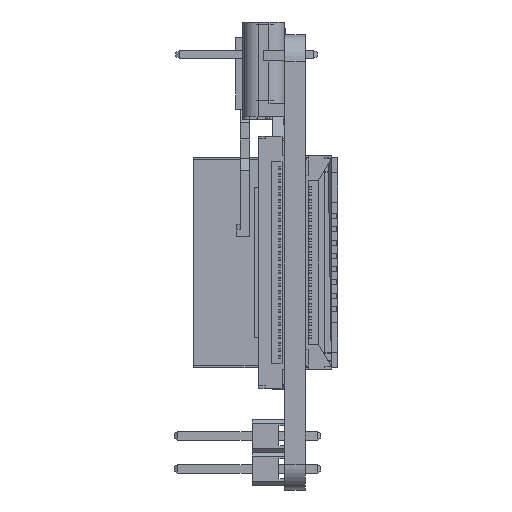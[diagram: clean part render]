
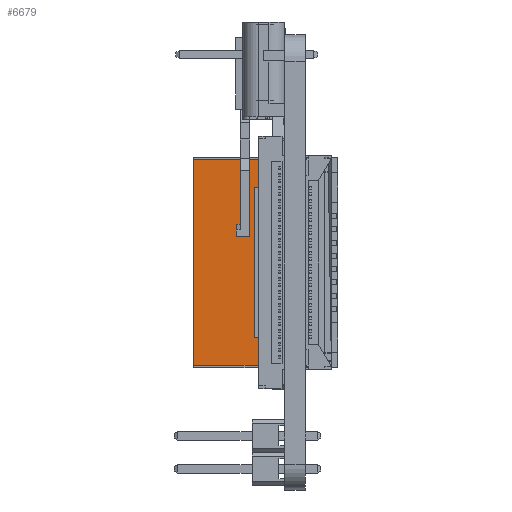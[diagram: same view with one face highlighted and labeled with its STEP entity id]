
A CAD part, left-side view. The second image highlights one B-rep face of the part: STEP entity #6679.
In plain terms, the highlighted planar face has unit normal (-1, 0, 0) as drawn and (0, -1, 0) by its records, which use the part's own axes.
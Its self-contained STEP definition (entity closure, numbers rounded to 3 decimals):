
#3227 = ORIENTED_EDGE ( 'NONE', *, *, #70784, .F. ) ;
#5444 = VECTOR ( 'NONE', #40023, 1000. ) ;
#6679 = ADVANCED_FACE ( 'NONE', ( #125054 ), #77301, .F. ) ;
#6750 = CARTESIAN_POINT ( 'NONE',  ( 0., 0., 0. ) ) ;
#7364 = VECTOR ( 'NONE', #14921, 1000. ) ;
#9146 = LINE ( 'NONE', #81284, #94436 ) ;
#13979 = CARTESIAN_POINT ( 'NONE',  ( 5.77, 0., 1.35 ) ) ;
#14921 = DIRECTION ( 'NONE',  ( 0., 0., 1. ) ) ;
#16116 = DIRECTION ( 'NONE',  ( 1., 0., 0. ) ) ;
#16457 = VERTEX_POINT ( 'NONE', #142351 ) ;
#17711 = DIRECTION ( 'NONE',  ( 0., 1., 0. ) ) ;
#18584 = CARTESIAN_POINT ( 'NONE',  ( -5.77, 0., 3.58 ) ) ;
#22781 = CARTESIAN_POINT ( 'NONE',  ( 7.9, 0., 1.35 ) ) ;
#23306 = VERTEX_POINT ( 'NONE', #56061 ) ;
#23868 = VERTEX_POINT ( 'NONE', #79984 ) ;
#24349 = VERTEX_POINT ( 'NONE', #31923 ) ;
#28493 = ORIENTED_EDGE ( 'NONE', *, *, #80221, .F. ) ;
#31923 = CARTESIAN_POINT ( 'NONE',  ( -5.77, 0., 1.35 ) ) ;
#39870 = LINE ( 'NONE', #146493, #132335 ) ;
#40023 = DIRECTION ( 'NONE',  ( 1., 0., 0. ) ) ;
#42323 = LINE ( 'NONE', #78406, #5444 ) ;
#45541 = LINE ( 'NONE', #22781, #134824 ) ;
#46909 = VERTEX_POINT ( 'NONE', #102653 ) ;
#47521 = CARTESIAN_POINT ( 'NONE',  ( 5.77, 0., -0.88 ) ) ;
#48258 = VECTOR ( 'NONE', #79707, 1000. ) ;
#50574 = EDGE_CURVE ( 'NONE', #134959, #16457, #9146, .T. ) ;
#54829 = EDGE_CURVE ( 'NONE', #23868, #46909, #154829, .T. ) ;
#56061 = CARTESIAN_POINT ( 'NONE',  ( -7.9, 0., 1.35 ) ) ;
#57717 = DIRECTION ( 'NONE',  ( -1., 0., 0. ) ) ;
#64279 = LINE ( 'NONE', #87050, #84593 ) ;
#65533 = DIRECTION ( 'NONE',  ( 0., 0., 1. ) ) ;
#70784 = EDGE_CURVE ( 'NONE', #46909, #142354, #39870, .T. ) ;
#72933 = ORIENTED_EDGE ( 'NONE', *, *, #148913, .F. ) ;
#76007 = ORIENTED_EDGE ( 'NONE', *, *, #50574, .F. ) ;
#77301 = PLANE ( 'NONE',  #86149 ) ;
#78406 = CARTESIAN_POINT ( 'NONE',  ( 0., 0., 1.35 ) ) ;
#79707 = DIRECTION ( 'NONE',  ( 0., 0., -1. ) ) ;
#79984 = CARTESIAN_POINT ( 'NONE',  ( -5.77, 0., -0.88 ) ) ;
#80221 = EDGE_CURVE ( 'NONE', #110165, #134959, #45541, .T. ) ;
#81284 = CARTESIAN_POINT ( 'NONE',  ( -8.1, 0., -5.55 ) ) ;
#84016 = EDGE_LOOP ( 'NONE', ( #99100, #96609, #131021, #114839, #76007, #28493, #72933, #3227 ) ) ;
#84593 = VECTOR ( 'NONE', #134756, 1000. ) ;
#86149 = AXIS2_PLACEMENT_3D ( 'NONE', #6750, #17711, #65533 ) ;
#87050 = CARTESIAN_POINT ( 'NONE',  ( 0., 0., 1.35 ) ) ;
#87770 = DIRECTION ( 'NONE',  ( 0., 0., 1. ) ) ;
#94436 = VECTOR ( 'NONE', #57717, 1000. ) ;
#96609 = ORIENTED_EDGE ( 'NONE', *, *, #104245, .F. ) ;
#99100 = ORIENTED_EDGE ( 'NONE', *, *, #54829, .F. ) ;
#99647 = LINE ( 'NONE', #122286, #7364 ) ;
#102653 = CARTESIAN_POINT ( 'NONE',  ( 5.77, 0., -0.88 ) ) ;
#104245 = EDGE_CURVE ( 'NONE', #24349, #23868, #140019, .T. ) ;
#110165 = VERTEX_POINT ( 'NONE', #113947 ) ;
#110982 = VECTOR ( 'NONE', #16116, 1000. ) ;
#113947 = CARTESIAN_POINT ( 'NONE',  ( 7.9, 0., 1.35 ) ) ;
#114839 = ORIENTED_EDGE ( 'NONE', *, *, #116880, .F. ) ;
#116880 = EDGE_CURVE ( 'NONE', #16457, #23306, #99647, .T. ) ;
#118562 = CARTESIAN_POINT ( 'NONE',  ( 7.9, 0., -5.55 ) ) ;
#122286 = CARTESIAN_POINT ( 'NONE',  ( -7.9, 0., 1.35 ) ) ;
#125054 = FACE_OUTER_BOUND ( 'NONE', #84016, .T. ) ;
#131021 = ORIENTED_EDGE ( 'NONE', *, *, #153862, .F. ) ;
#132335 = VECTOR ( 'NONE', #87770, 1000. ) ;
#134756 = DIRECTION ( 'NONE',  ( 1., 0., 0. ) ) ;
#134824 = VECTOR ( 'NONE', #141914, 1000. ) ;
#134959 = VERTEX_POINT ( 'NONE', #118562 ) ;
#140019 = LINE ( 'NONE', #18584, #48258 ) ;
#141914 = DIRECTION ( 'NONE',  ( 0., 0., -1. ) ) ;
#142351 = CARTESIAN_POINT ( 'NONE',  ( -7.9, 0., -5.55 ) ) ;
#142354 = VERTEX_POINT ( 'NONE', #13979 ) ;
#146493 = CARTESIAN_POINT ( 'NONE',  ( 5.77, 0., 3.58 ) ) ;
#148913 = EDGE_CURVE ( 'NONE', #142354, #110165, #64279, .T. ) ;
#153862 = EDGE_CURVE ( 'NONE', #23306, #24349, #42323, .T. ) ;
#154829 = LINE ( 'NONE', #47521, #110982 ) ;
